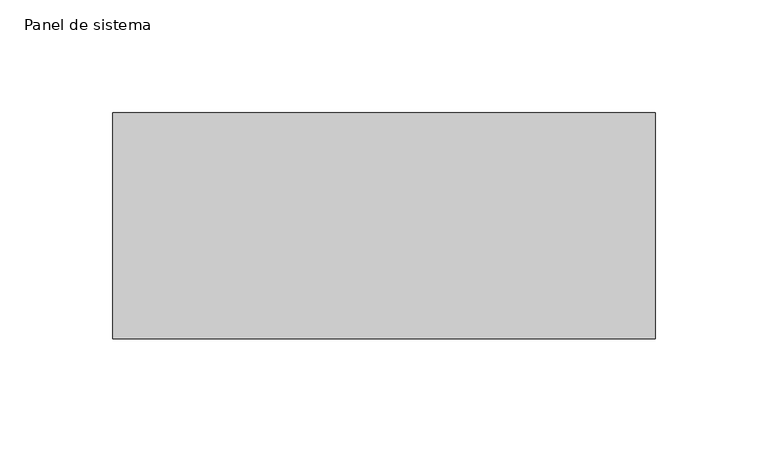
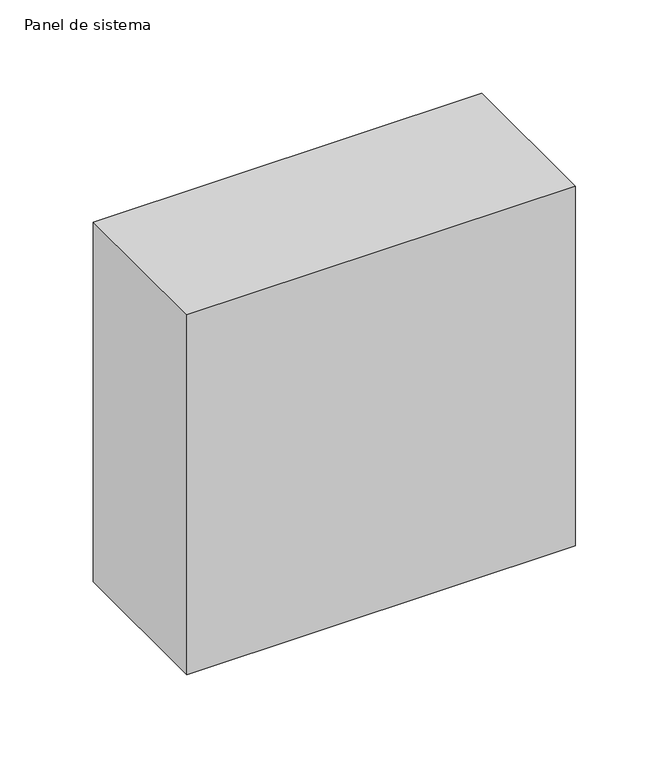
"""IFC4 building model written with IfcOpenShell, lengths in millimetres: plate geometry, Panel de sistema : PAVES."""

from ifc_helpers import new_model, si_unit, origin, origin_with_axes, place, context, project, spatial, polyline, outline, extrude, source, transform, mapped, element, save


def panel_de_sistema_2d9dcff1(model_context):
    return source(origin(), model_context, "Body", "SweptSolid", [
        extrude(outline(polyline([(120.0, -50.0), (-120.0, -50.0), (-120.0, 50.0), (120.0, 50.0), (120.0, -50.0)])), origin_with_axes(), (0.0, 0.0, 1.0), 235.0),
    ])


if __name__ == "__main__":
    model = new_model("IFC4")
    model_context = context("Model", 3, world=origin())
    ifc_project = project(units=[si_unit("LENGTHUNIT", "METRE", prefix="MILLI")], contexts=[model_context])
    site = spatial("IfcSite", under=ifc_project)
    building = spatial("IfcBuilding", under=site)
    placement = place(None, origin())
    panel_de_sistema_shape = panel_de_sistema_2d9dcff1(model_context)
    element("IfcPlate", 1, ObjectType="Panel de sistema : PAVES", at=placement, inside=building, context=model_context, shape_type="MappedRepresentation", body=[
        mapped(panel_de_sistema_shape, transform((0.0, 0.0, 0.0), x_axis=(1.0, 0.0, 0.0), y_axis=(0.0, 1.0, 0.0), z_axis=(0.0, 0.0, 1.0))),
    ])
    save(model, "model.ifc")
